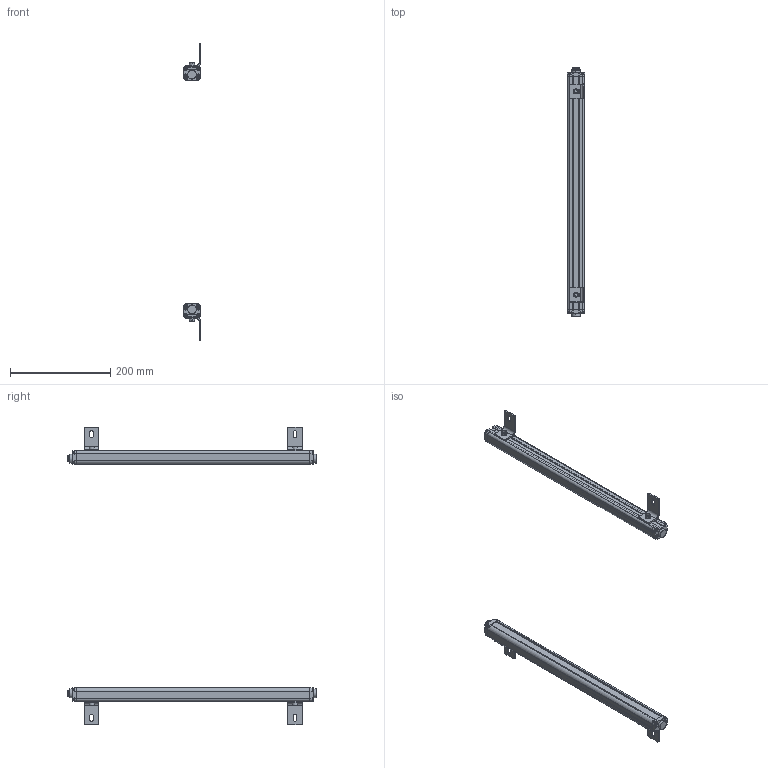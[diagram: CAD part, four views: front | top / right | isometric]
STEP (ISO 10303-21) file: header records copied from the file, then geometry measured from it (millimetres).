
FILE_DESCRIPTION (( 'STEP AP214' ), '1' );
FILE_NAME ('elg2220.STEP', '2018-02-28T08:54:12', ( '' ), ( '' ), 'SwSTEP 2.0', 'SolidWorks 2017', '' );
FILE_SCHEMA (( 'AUTOMOTIVE_DESIGN' ));
Length unit declared in the file: millimetre
Products named in the file (11): czzj-2220; elg2220; elgw-2220; lx-2220; hkct1-2220; elgdg03-2220; dlx-2220; bz1-2220; lgp-2220; glgdg-2220; hk-2220
Assembly tree (40 placements, depth 2):
  elg2220
    elgw-2220  x2
    bz1-2220  x2
    lgp-2220  x2
    glgdg-2220  x2
    elgdg03-2220  x2
    hkct1-2220  x2
    lx-2220  x16
    hk-2220  x4
    czzj-2220  x4
    dlx-2220  x4
Bounding box: 34.7 x 497.6 x 594 mm (x, y, z)
Volume: 367654.2 mm3; surface area: 382293.4 mm2
Topology: 40 solids, 40 shells, 2176 faces, 5696 edges, 3616 vertices
Faces by surface type: cylinder 1040, plane 688, bspline 448
Entity records: 143729 total; most frequent: CARTESIAN_POINT 128630, ORIENTED_EDGE 3188, DIRECTION 2846, EDGE_CURVE 1594, AXIS2_PLACEMENT_3D 1037, VERTEX_POINT 1024, LINE 772, VECTOR 772
